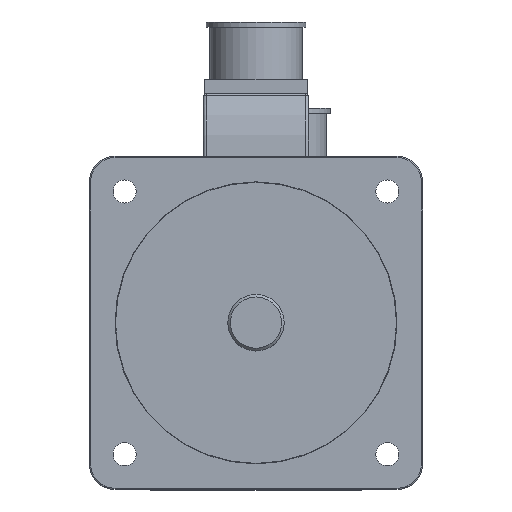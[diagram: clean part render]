
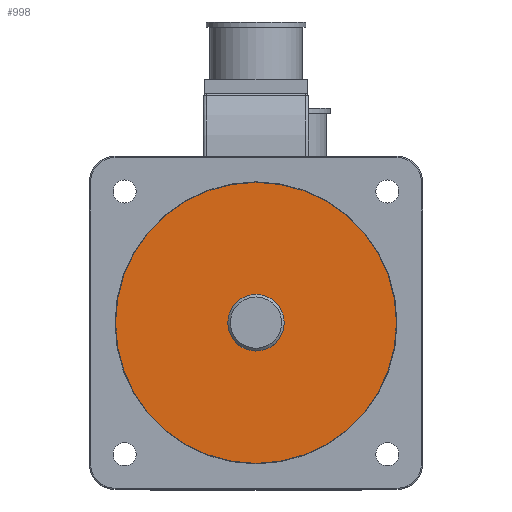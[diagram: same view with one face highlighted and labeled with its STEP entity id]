
A CAD part, top view. The second image highlights one B-rep face of the part: STEP entity #998.
In plain terms, the highlighted planar face has unit normal (0, 0, 1).
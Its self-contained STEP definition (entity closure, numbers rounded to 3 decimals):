
#204=PLANE('',#4107);
#998=ADVANCED_FACE('',(#1371,#1372),#204,.F.);
#1371=FACE_BOUND('',#1429,.T.);
#1372=FACE_BOUND('',#1430,.T.);
#1429=EDGE_LOOP('',(#1811));
#1430=EDGE_LOOP('',(#1812));
#1811=ORIENTED_EDGE('',*,*,#3283,.T.);
#1812=ORIENTED_EDGE('',*,*,#3279,.F.);
#2940=VERTEX_POINT('',#6154);
#2944=VERTEX_POINT('',#6165);
#3279=EDGE_CURVE('',#2940,#2940,#3791,.T.);
#3283=EDGE_CURVE('',#2944,#2944,#3795,.T.);
#3791=CIRCLE('',#4099,11.);
#3795=CIRCLE('',#4106,54.818);
#4099=AXIS2_PLACEMENT_3D('',#6153,#4771,#4772);
#4106=AXIS2_PLACEMENT_3D('',#6164,#4785,#4786);
#4107=AXIS2_PLACEMENT_3D('',#6166,#4787,#4788);
#4771=DIRECTION('',(0.,0.,1.));
#4772=DIRECTION('',(1.,0.,0.));
#4785=DIRECTION('',(0.,0.,1.));
#4786=DIRECTION('',(-1.,0.,0.));
#4787=DIRECTION('',(0.,0.,-1.));
#4788=DIRECTION('',(-1.,0.,0.));
#6153=CARTESIAN_POINT('',(0.,0.,0.));
#6154=CARTESIAN_POINT('',(11.,0.,0.));
#6164=CARTESIAN_POINT('',(0.,0.,0.));
#6165=CARTESIAN_POINT('',(-54.818,0.,0.));
#6166=CARTESIAN_POINT('',(0.,0.,0.));
